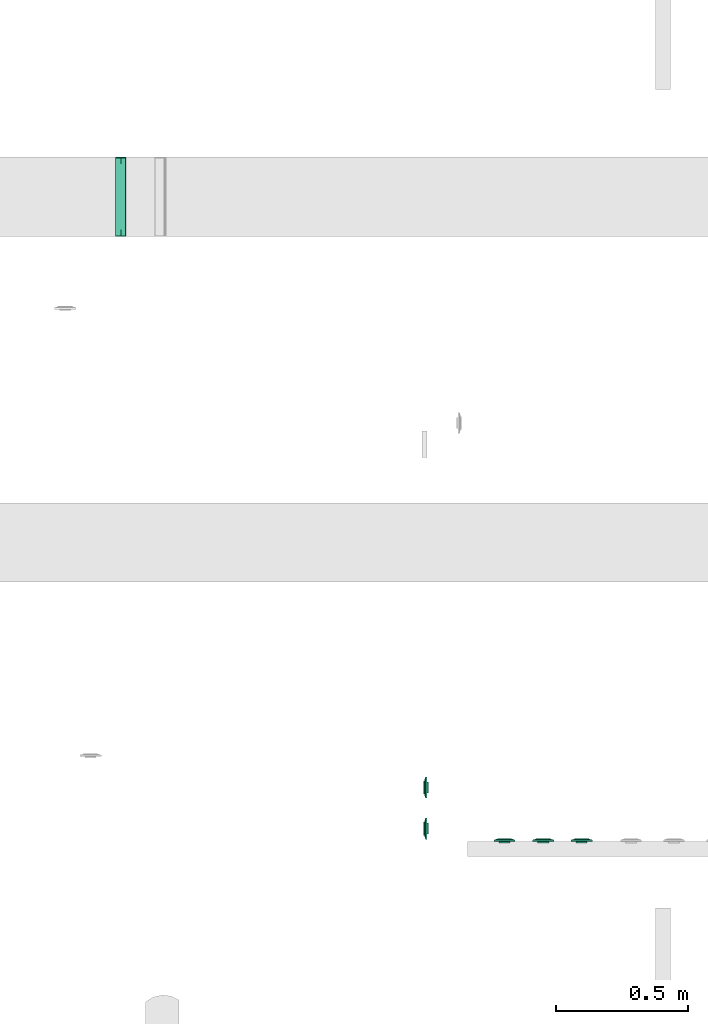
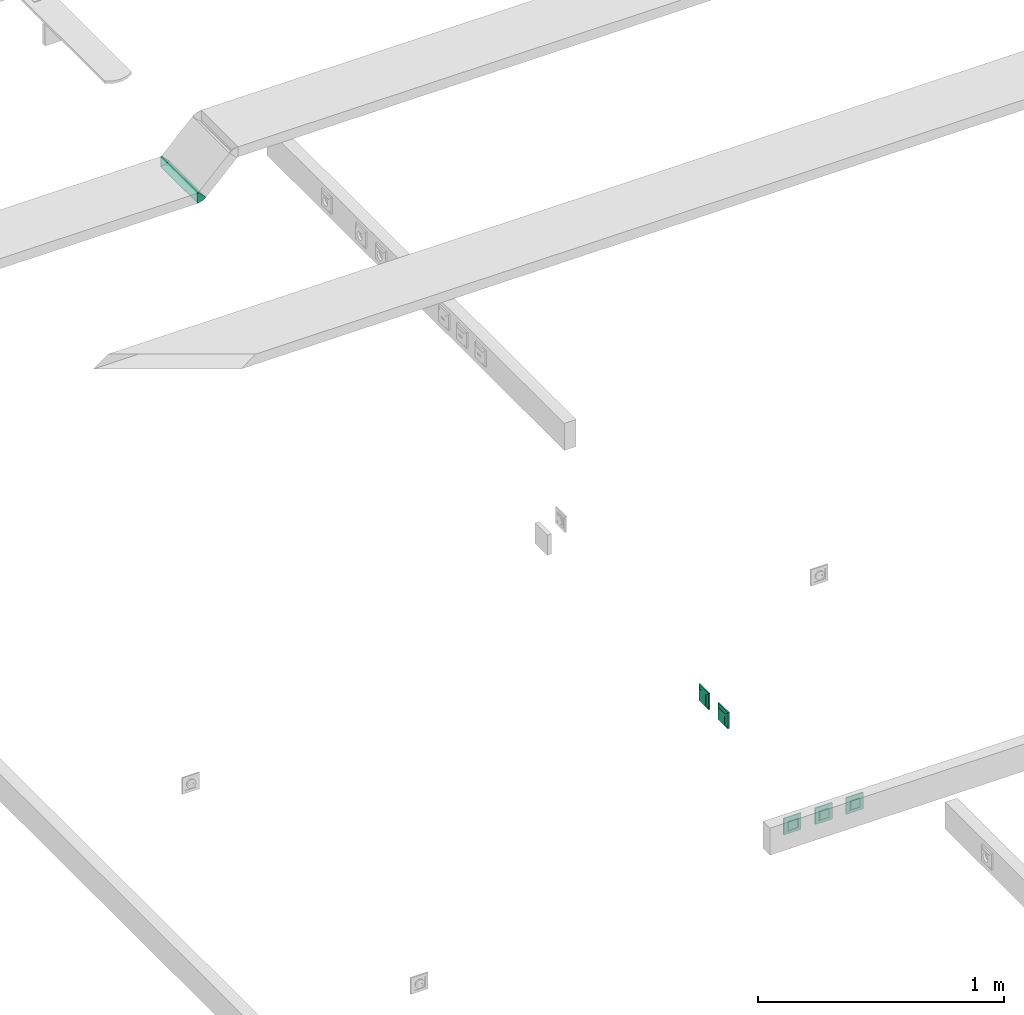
# One storey, part 29 of 166: 5 flow terminals, 1 flow fitting.
"""IFC2X3 building model written with IfcOpenShell, lengths in metres."""

from ifc_helpers import new_model, entity, si_unit, converted_unit, derived_unit, direction, frame, origin, place, context, subcontext, project, spatial, faceted_brep, source, transform, mapped, type_object, type_shapes, element, save


model = new_model("IFC2X3")

# Units and contexts
model_context = context("Model", 3, precision=1e-05, world=origin(), true_north=direction((6.12303176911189e-17, 1.0)))
body_context = subcontext(model_context, "Body", "Model", "MODEL_VIEW")
ifc_project = project(units=[si_unit("LENGTHUNIT", "METRE"), si_unit("AREAUNIT", "SQUARE_METRE"), si_unit("VOLUMEUNIT", "CUBIC_METRE"), converted_unit("PLANEANGLEUNIT", "DEGREE", entity("IfcRatioMeasure", 0.0174532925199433), si_unit("PLANEANGLEUNIT", "RADIAN"), dimensions=[0, 0, 0, 0, 0, 0, 0]), si_unit("MASSUNIT", "GRAM", prefix="KILO"), derived_unit("MASSDENSITYUNIT", [(si_unit("MASSUNIT", "GRAM", prefix="KILO"), 1), (si_unit("LENGTHUNIT", "METRE"), -3)]), si_unit("TIMEUNIT", "SECOND"), si_unit("FREQUENCYUNIT", "HERTZ"), si_unit("THERMODYNAMICTEMPERATUREUNIT", "DEGREE_CELSIUS"), derived_unit("THERMALTRANSMITTANCEUNIT", [(si_unit("MASSUNIT", "GRAM", prefix="KILO"), 1), (si_unit("THERMODYNAMICTEMPERATUREUNIT", "KELVIN"), -1), (si_unit("TIMEUNIT", "SECOND"), -3)]), derived_unit("VOLUMETRICFLOWRATEUNIT", [(si_unit("LENGTHUNIT", "METRE"), 3), (si_unit("TIMEUNIT", "SECOND"), -1)]), si_unit("ELECTRICCURRENTUNIT", "AMPERE"), si_unit("ELECTRICVOLTAGEUNIT", "VOLT"), si_unit("POWERUNIT", "WATT"), si_unit("FORCEUNIT", "NEWTON"), si_unit("ILLUMINANCEUNIT", "LUX"), si_unit("LUMINOUSFLUXUNIT", "LUMEN"), si_unit("LUMINOUSINTENSITYUNIT", "CANDELA"), derived_unit("USERDEFINED", [(si_unit("MASSUNIT", "GRAM", prefix="KILO"), -1), (si_unit("LENGTHUNIT", "METRE"), -2), (si_unit("TIMEUNIT", "SECOND"), 3), (si_unit("LUMINOUSFLUXUNIT", "LUMEN"), 1)]), derived_unit("LINEARVELOCITYUNIT", [(si_unit("LENGTHUNIT", "METRE"), 1), (si_unit("TIMEUNIT", "SECOND"), -1)]), si_unit("PRESSUREUNIT", "PASCAL"), derived_unit("USERDEFINED", [(si_unit("LENGTHUNIT", "METRE"), -2), (si_unit("MASSUNIT", "GRAM", prefix="KILO"), 1), (si_unit("TIMEUNIT", "SECOND"), -2)])], contexts=[model_context])

# Site, building, storey
site_placement = place(None, origin())
site = spatial("IfcSite", under=ifc_project, at=site_placement, Name="Default", CompositionType="ELEMENT")
building_placement = place(site_placement, origin())
building = spatial("IfcBuilding", under=site, at=building_placement, CompositionType="ELEMENT")
storey_placement = place(building_placement, frame((0.0, 0.0, 4.27)))
storey = spatial("IfcBuildingStorey", under=building, at=storey_placement, Name="01", CompositionType="ELEMENT", Elevation=4.27)

# Flow terminals
electric_appliance_type = type_object("IfcElectricApplianceType", Name="RJ45 IP20", PredefinedType="NOTDEFINED")
shared_shape_1 = source(origin(), body_context, "Body", "Brep", [
    faceted_brep([(0.00200000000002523, 0.0, 0.00799999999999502), (0.00400000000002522, 0.0, 0.00799999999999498), (0.00500000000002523, 0.00199999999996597, 0.00799999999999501), (0.0110000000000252, 0.00199999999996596, 0.00799999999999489), (0.0120000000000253, 0.0, 0.00799999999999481), (0.0140000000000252, 0.0, 0.00799999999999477), (0.0140000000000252, 0.00399999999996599, 0.00799999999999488), (0.00200000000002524, 0.00399999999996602, 0.00799999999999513), (0.00200000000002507, 0.0, 0.0), (0.00200000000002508, 0.00399999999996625, 0.0), (0.0140000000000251, 0.00399999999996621, 0.0), (0.0140000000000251, 0.0, 0.0), (0.0120000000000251, 0.0, 0.0), (0.0110000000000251, 0.00199999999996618, 0.0), (0.00500000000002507, 0.0019999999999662, 0.0), (0.00400000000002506, 0.0, 0.0)], [[[0, 1, 2, 3, 4, 5, 6, 7]], [[8, 9, 10, 11, 12, 13, 14, 15]], [[1, 0, 8, 15]], [[2, 1, 15, 14]], [[3, 2, 14, 13]], [[4, 3, 13, 12]], [[5, 4, 12, 11]], [[6, 5, 11, 10]], [[7, 6, 10, 9]], [[0, 7, 9, 8]]]),
    faceted_brep([(-0.0139999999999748, 0.0, 0.00799999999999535), (-0.0119999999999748, 0.0, 0.00799999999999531), (-0.0109999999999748, 0.00199999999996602, 0.00799999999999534), (-0.00499999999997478, 0.00199999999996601, 0.00799999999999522), (-0.0039999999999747, 0.0, 0.00799999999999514), (-0.00199999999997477, 0.0, 0.0079999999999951), (-0.00199999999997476, 0.00399999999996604, 0.00799999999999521), (-0.0139999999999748, 0.00399999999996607, 0.00799999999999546), (-0.0139999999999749, 0.0, 0.0), (-0.0139999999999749, 0.00399999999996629, 0.0), (-0.00199999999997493, 0.00399999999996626, 0.0), (-0.00199999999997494, 0.0, 0.0), (-0.00399999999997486, 0.0, 0.0), (-0.00499999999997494, 0.00199999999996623, 0.0), (-0.0109999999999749, 0.00199999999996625, 0.0), (-0.0119999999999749, 0.0, 0.0)], [[[0, 1, 2, 3, 4, 5, 6, 7]], [[8, 9, 10, 11, 12, 13, 14, 15]], [[1, 0, 8, 15]], [[2, 1, 15, 14]], [[3, 2, 14, 13]], [[4, 3, 13, 12]], [[5, 4, 12, 11]], [[6, 5, 11, 10]], [[7, 6, 10, 9]], [[0, 7, 9, 8]]]),
    faceted_brep([(0.0140000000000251, 0.00399999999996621, 0.0), (0.00200000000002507, 0.00399999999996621, 0.0), (0.00200000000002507, -0.00350000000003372, 0.0), (0.0140000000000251, -0.00350000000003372, 0.0), (0.0140000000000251, 0.00399999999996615, 0.00199999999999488), (0.00200000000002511, 0.00399999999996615, 0.00199999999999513), (0.00200000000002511, -0.00393859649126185, 0.00199999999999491), (0.0140000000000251, -0.00393859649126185, 0.00199999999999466), (0.0210000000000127, 0.0209999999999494, 0.00199999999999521), (-0.0209999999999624, 0.0209999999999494, 0.00199999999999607), (-0.0209999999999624, -0.0210000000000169, 0.00199999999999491), (0.0210000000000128, -0.0210000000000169, 0.00199999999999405), (-0.0139999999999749, 0.0039999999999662, 0.00199999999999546), (-0.0019999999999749, 0.0039999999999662, 0.00199999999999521), (-0.00199999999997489, -0.0039385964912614, 0.00199999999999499), (-0.0139999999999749, -0.00393859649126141, 0.00199999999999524), (0.0210000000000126, 0.0209999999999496, -0.00460000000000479), (0.0210000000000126, -0.0210000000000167, -0.00460000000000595), (-0.0209999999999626, -0.0210000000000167, -0.00460000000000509), (-0.0209999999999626, 0.0209999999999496, -0.00460000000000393), (-0.00199999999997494, 0.00399999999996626, 0.0), (-0.0139999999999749, 0.00399999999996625, 0.0), (-0.0139999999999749, -0.00350000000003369, 0.0), (-0.00199999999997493, -0.00350000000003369, 0.0)], [[[0, 1, 2, 3]], [[1, 0, 4, 5]], [[2, 1, 5, 6]], [[3, 2, 6, 7]], [[0, 3, 7, 4]], [[5, 4, 7, 6], [8, 9, 10, 11], [12, 13, 14, 15]], [[16, 17, 18, 19]], [[9, 8, 16, 19]], [[10, 9, 19, 18]], [[11, 10, 18, 17]], [[8, 11, 17, 16]], [[20, 21, 22, 23]], [[21, 20, 13, 12]], [[22, 21, 12, 15]], [[23, 22, 15, 14]], [[20, 23, 14, 13]]], outer=[[True], [True], [True], [True], [True], [False, True, False], [True], [True], [True], [True], [True], [True], [True], [True], [True], [True]]),
    faceted_brep([(0.0270000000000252, 0.026999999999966, 0.0113999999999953), (-0.0269999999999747, 0.026999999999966, 0.0113999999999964), (-0.0269999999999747, -0.0270000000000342, 0.0113999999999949), (0.0270000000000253, -0.0270000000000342, 0.0113999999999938), (0.0020000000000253, 0.00399999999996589, 0.0113999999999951), (0.0140000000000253, 0.00399999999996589, 0.0113999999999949), (0.0140000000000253, -0.00600000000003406, 0.0113999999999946), (0.0020000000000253, -0.00600000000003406, 0.0113999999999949), (-0.0139999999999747, 0.00399999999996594, 0.0113999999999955), (-0.00199999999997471, 0.00399999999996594, 0.0113999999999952), (-0.00199999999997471, -0.0060000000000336, 0.0113999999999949), (-0.0139999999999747, -0.00600000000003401, 0.0113999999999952), (0.0270000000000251, 0.0269999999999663, 0.00199999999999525), (0.0270000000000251, -0.0270000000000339, 0.00199999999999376), (-0.0269999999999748, -0.0270000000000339, 0.00199999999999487), (-0.0269999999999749, 0.0269999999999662, 0.00199999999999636), (0.0140000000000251, 0.00399999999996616, 0.00199999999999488), (0.00200000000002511, 0.00399999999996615, 0.00199999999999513), (0.00200000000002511, -0.00393859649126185, 0.00199999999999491), (0.0140000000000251, -0.00393859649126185, 0.00199999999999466), (-0.00199999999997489, 0.0039999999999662, 0.00199999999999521), (-0.0139999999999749, 0.0039999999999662, 0.00199999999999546), (-0.0139999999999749, -0.0039385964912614, 0.00199999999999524), (-0.00199999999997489, -0.0039385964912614, 0.00199999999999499)], [[[0, 1, 2, 3], [4, 5, 6, 7], [8, 9, 10, 11]], [[12, 13, 14, 15], [16, 17, 18, 19], [20, 21, 22, 23]], [[1, 0, 12, 15]], [[2, 1, 15, 14]], [[3, 2, 14, 13]], [[0, 3, 13, 12]], [[4, 17, 16, 5]], [[17, 4, 7, 18]], [[18, 7, 6, 19]], [[5, 16, 19, 6]], [[8, 21, 20, 9]], [[21, 8, 11, 22]], [[22, 11, 10, 23]], [[9, 20, 23, 10]]]),
    faceted_brep([(0.027000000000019, 0.0269999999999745, 0.00659999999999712), (-0.0269999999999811, 0.0269999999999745, 0.00659999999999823), (-0.026999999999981, -0.0270000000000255, 0.00659999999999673), (0.027000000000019, -0.0270000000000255, 0.00659999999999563), (0.040350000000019, 0.0403499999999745, 0.00659999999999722), (0.040350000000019, -0.0403500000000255, 0.00659999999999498), (-0.0403499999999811, -0.0403500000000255, 0.00659999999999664), (-0.0403499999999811, 0.0403499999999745, 0.00659999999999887), (-0.026999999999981, 0.0269999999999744, 0.0103999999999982), (0.027000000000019, 0.0269999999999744, 0.0103999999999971), (-0.026999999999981, -0.0270000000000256, 0.0103999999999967), (0.027000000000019, -0.0270000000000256, 0.0103999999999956)], [[[0, 1, 2, 3], [4, 5, 6, 7]], [[4, 7, 8, 9]], [[7, 6, 10, 8]], [[6, 5, 11, 10]], [[5, 4, 9, 11]], [[0, 9, 8, 1]], [[1, 8, 10, 2]], [[2, 10, 11, 3]], [[9, 0, 3, 11]]], outer=[[False, True], [True], [True], [True], [True], [True], [True], [True], [True]]),
    faceted_brep([(0.040350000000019, 0.0403499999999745, 0.00659999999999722), (-0.0403499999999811, 0.0403499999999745, 0.00659999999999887), (-0.0403499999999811, -0.0403500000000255, 0.00659999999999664), (0.040350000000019, -0.0403500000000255, 0.00659999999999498), (-0.0269999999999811, 0.0269999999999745, 0.00659999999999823), (0.0270000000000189, 0.0269999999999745, 0.00659999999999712), (0.0270000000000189, -0.0270000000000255, 0.00659999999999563), (-0.0269999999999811, -0.0270000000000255, 0.00659999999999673), (0.0403500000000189, 0.0403499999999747, 0.0), (0.0403500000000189, -0.0403500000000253, 0.0), (-0.0403499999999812, -0.0403500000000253, 0.0), (-0.0403499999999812, 0.0403499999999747, 0.0), (0.0270000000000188, 0.0269999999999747, 0.0), (-0.0269999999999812, 0.0269999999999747, 0.0), (-0.0269999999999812, -0.0270000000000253, 0.0), (0.0270000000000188, -0.0270000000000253, 0.0)], [[[0, 1, 2, 3], [4, 5, 6, 7]], [[8, 9, 10, 11], [12, 13, 14, 15]], [[1, 0, 8, 11]], [[2, 1, 11, 10]], [[3, 2, 10, 9]], [[0, 3, 9, 8]], [[12, 5, 4, 13]], [[13, 4, 7, 14]], [[14, 7, 6, 15]], [[5, 12, 15, 6]]]),
])
type_shapes(electric_appliance_type, [shared_shape_1])
for number, where, z_axis, x_axis in (
    (1, (28.9291329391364, -190.52806962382, 4.70800000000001), (0.0, 1.0, 0.0), (-1.0, 0.0, 0.0)),
    (2, (29.0742919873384, -190.52806962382, 4.70800000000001), (0.0, 1.0, 0.0), (-1.0, 0.0, 0.0)),
    (3, (28.7821329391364, -190.52806962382, 4.70800000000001), (0.0, 1.0, 0.0), (-1.0, 0.0, 0.0)),
):
    element("IfcFlowTerminal", number, at=place(building_placement, frame(where, z_axis=z_axis, x_axis=x_axis)), inside=storey, type_object=electric_appliance_type, Name="INT_Prise RJ45:RJ45 IP20", ObjectType="INT_Prise RJ45:RJ45 IP20", context=body_context, shape_type="MappedRepresentation", body=[
        mapped(shared_shape_1, transform((0.0, 0.0, 0.0), scale=1.0)),
    ])

# Flow fitting
cable_carrier_fitting_type = type_object("IfcCableCarrierFittingType", Name="E_Bend_Vertical_Inside_CA_Generic_MEPcontent", PredefinedType="NOTDEFINED")
shared_shape_2 = source(origin(), body_context, "Body", "Brep", [
    faceted_brep([(-0.00886744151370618, 0.0264878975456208, 0.14746000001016), (-0.00886744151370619, 0.0264878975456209, 0.15), (0.0264878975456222, -0.00886744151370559, 0.15), (0.0264878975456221, -0.0088674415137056, 0.0), (0.0264878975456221, -0.00886744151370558, -0.15), (-0.00886744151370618, 0.0264878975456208, -0.15), (-0.00886744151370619, 0.0264878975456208, -0.14746000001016), (0.0246918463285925, -0.00707139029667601, -0.14746000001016), (0.0246918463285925, -0.00707139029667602, 0.0), (0.0246918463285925, -0.007071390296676, 0.14746000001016), (-0.0124595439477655, 0.025, -0.14746000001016), (-0.0124595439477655, 0.025, -0.15), (-0.0124595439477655, -0.025, -0.15), (-0.0124595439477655, -0.025, 0.0), (-0.0124595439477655, -0.025, 0.15), (-0.0124595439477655, 0.025, 0.15), (-0.0124595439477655, 0.025, 0.14746000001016), (-0.0124595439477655, -0.02246000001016, 0.14746000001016), (-0.0124595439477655, -0.02246000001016, 0.0), (-0.0124595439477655, -0.02246000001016, -0.14746000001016), (-0.00192044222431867, -0.0229036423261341, 0.15), (0.00861865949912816, -0.0208072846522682, 0.15), (0.0175532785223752, -0.0148373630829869, 0.15), (-0.0105155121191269, 0.0253866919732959, 0.15), (-0.0105155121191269, 0.0253866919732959, 0.14746000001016), (0.0161692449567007, -0.0127660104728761, 0.14746000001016), (0.00764664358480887, -0.0184606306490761, 0.14746000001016), (-0.00240645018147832, -0.0204603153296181, 0.14746000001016), (-0.00240645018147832, -0.0204603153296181, -0.14746000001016), (0.00764664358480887, -0.0184606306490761, -0.14746000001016), (0.0161692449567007, -0.0127660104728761, -0.14746000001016), (-0.0105155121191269, 0.0253866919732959, -0.14746000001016), (-0.0105155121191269, 0.0253866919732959, -0.15), (0.0175532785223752, -0.0148373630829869, -0.15), (0.00861865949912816, -0.0208072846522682, -0.15), (-0.00192044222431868, -0.0229036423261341, -0.15), (0.00352933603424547, -0.0226282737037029, 0.0), (0.0151733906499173, -0.0175669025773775, 0.0), (0.00279201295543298, -0.0201976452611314, 0.0), (0.0144110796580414, -0.0150688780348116, 0.0)], [[[0, 1, 2, 3, 4, 5, 6, 7, 8, 9]], [[10, 11, 12, 13, 14, 15, 16, 17, 18, 19]], [[15, 14, 20, 21, 22, 2, 1, 23]], [[24, 0, 9, 25, 26, 27, 17, 16]], [[10, 19, 28, 29, 30, 7, 6, 31]], [[32, 5, 4, 33, 34, 35, 12, 11]], [[35, 36, 13]], [[33, 3, 37]], [[34, 36, 35]], [[34, 37, 36]], [[37, 3, 22]], [[3, 33, 4]], [[2, 22, 3]], [[21, 20, 36]], [[37, 21, 36]], [[37, 34, 33]], [[20, 13, 36]], [[13, 20, 14]], [[12, 35, 13]], [[22, 21, 37]], [[31, 32, 11, 10]], [[15, 23, 24, 16]], [[6, 5, 32, 31]], [[1, 0, 24, 23]], [[18, 38, 28]], [[39, 8, 30]], [[28, 38, 29]], [[38, 39, 29]], [[25, 8, 39]], [[7, 30, 8]], [[8, 25, 9]], [[38, 27, 26]], [[38, 26, 39]], [[30, 29, 39]], [[38, 18, 27]], [[17, 27, 18]], [[18, 28, 19]], [[39, 26, 25]]]),
    faceted_brep([(-0.00886744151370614, 0.0264878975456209, 0.15), (-0.00886744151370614, 0.0264878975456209, 0.14746000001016), (0.0246918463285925, -0.00707139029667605, 0.14746000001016), (0.0246918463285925, -0.00707139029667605, -0.14746000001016), (-0.00886744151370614, 0.0264878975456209, -0.14746000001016), (-0.00886744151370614, 0.0264878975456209, -0.15), (0.0264878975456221, -0.00886744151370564, -0.15), (0.0264878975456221, -0.00886744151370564, 0.15), (-0.00816033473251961, 0.0271950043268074, 0.15), (0.0271950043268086, -0.00816033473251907, 0.15), (0.0271950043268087, -0.00816033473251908, -0.15), (-0.00816033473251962, 0.0271950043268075, -0.15), (-0.00816033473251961, 0.0271950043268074, -0.14746000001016), (0.025398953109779, -0.00636428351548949, -0.14746000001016), (0.025398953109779, -0.00636428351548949, 0.14746000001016), (-0.00816033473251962, 0.0271950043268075, 0.14746000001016)], [[[0, 1, 2, 3, 4, 5, 6, 7]], [[8, 9, 10, 11, 12, 13, 14, 15]], [[6, 5, 11, 10]], [[4, 3, 13, 12]], [[2, 1, 15, 14]], [[0, 7, 9, 8]], [[1, 0, 8, 15]], [[3, 2, 14, 13]], [[5, 4, 12, 11]], [[7, 6, 10, 9]]]),
    faceted_brep([(-0.0124595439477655, 0.025, 0.15), (-0.0124595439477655, -0.025, 0.15), (-0.0124595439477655, -0.025, -0.15), (-0.0124595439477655, 0.025, -0.15), (-0.0124595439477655, 0.025, -0.14746000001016), (-0.0124595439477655, -0.02246000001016, -0.14746000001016), (-0.0124595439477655, -0.02246000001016, 0.14746000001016), (-0.0124595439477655, 0.025, 0.14746000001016), (-0.0134595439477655, 0.025, 0.15), (-0.0134595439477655, 0.025, 0.14746000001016), (-0.0134595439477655, -0.02246000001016, 0.14746000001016), (-0.0134595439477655, -0.02246000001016, -0.14746000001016), (-0.0134595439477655, 0.025, -0.14746000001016), (-0.0134595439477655, 0.025, -0.15), (-0.0134595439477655, -0.025, -0.15), (-0.0134595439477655, -0.025, 0.15)], [[[0, 1, 2, 3, 4, 5, 6, 7]], [[8, 9, 10, 11, 12, 13, 14, 15]], [[1, 0, 8, 15]], [[7, 6, 10, 9]], [[5, 4, 12, 11]], [[3, 2, 14, 13]], [[2, 1, 15, 14]], [[4, 3, 13, 12]], [[6, 5, 11, 10]], [[0, 7, 9, 8]]]),
])
type_shapes(cable_carrier_fitting_type, [shared_shape_2])
flow_fitting_placement = place(storey_placement, frame((27.323385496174, -188.087883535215, 2.67095756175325), z_axis=(0.0, -1.0, 0.0), x_axis=(1.0, 0.0, 0.0)))
element("IfcFlowFitting", 4, at=flow_fitting_placement, inside=storey, type_object=cable_carrier_fitting_type, Name="E_Bend_Vertical_Inside_CA_Generic_MEPcontent:E_Bend_Vertical_Inside_CA_Generic_MEPcontent", ObjectType="E_Bend_Vertical_Inside_CA_Generic_MEPcontent:E_Bend_Vertical_Inside_CA_Generic_MEPcontent", context=body_context, shape_type="MappedRepresentation", body=[
    mapped(shared_shape_2, transform((0.0, 0.0, 0.0), scale=1.0)),
])

# Flow terminals
light_fixture_type = type_object("IfcLightFixtureType", Name="BP IP21", PredefinedType="NOTDEFINED")
shared_shape_3 = source(origin(), body_context, "Body", "Brep", [
    faceted_brep([(0.0, 0.0209999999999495, -0.00460000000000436), (0.00543519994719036, 0.02028444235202, -0.00460000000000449), (0.0105000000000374, 0.0181865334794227, -0.00460000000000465), (0.0148492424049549, 0.014849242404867, -0.00460000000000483), (0.0181865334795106, 0.0104999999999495, -0.00460000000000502), (0.0202844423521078, 0.00543519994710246, -0.00460000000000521), (0.0210000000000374, 0.0, -0.00460000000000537), (0.0202844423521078, -0.00543519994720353, -0.00460000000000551), (0.0181865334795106, -0.0105000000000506, -0.0046000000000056), (0.0148492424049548, -0.0148492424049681, -0.00460000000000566), (0.0105000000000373, -0.0181865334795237, -0.00460000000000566), (0.00543519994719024, -0.0202844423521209, -0.00460000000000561), (0.0, -0.0210000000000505, -0.00460000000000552), (-0.00543519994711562, -0.0202844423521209, -0.00460000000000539), (-0.0104999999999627, -0.0181865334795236, -0.00460000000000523), (-0.0148492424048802, -0.0148492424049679, -0.00460000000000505), (-0.0181865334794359, -0.0105000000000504, -0.00460000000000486), (-0.0202844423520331, -0.00543519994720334, -0.00460000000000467), (-0.0209999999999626, 0.0, -0.00460000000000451), (-0.020284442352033, 0.00543519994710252, -0.00460000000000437), (-0.0181865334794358, 0.0104999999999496, -0.00460000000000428), (-0.0148492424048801, 0.0148492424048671, -0.00460000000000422), (-0.0104999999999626, 0.0181865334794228, -0.00460000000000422), (-0.00543519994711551, 0.02028444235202, -0.00460000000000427), (-0.020284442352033, -0.00543519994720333, 0.0), (-0.0209999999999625, 0.0, 0.0), (-0.0181865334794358, -0.0105000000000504, 0.0), (-0.0104999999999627, -0.0181865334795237, 0.0), (-0.0148492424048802, -0.0148492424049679, 0.0), (-0.00543519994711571, -0.020284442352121, 0.0), (0.0, -0.0210000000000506, 0.0), (0.00543519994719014, -0.0202844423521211, 0.0), (0.0105000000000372, -0.018186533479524, 0.0), (0.0181865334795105, -0.0105000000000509, 0.0), (0.0148492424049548, -0.0148492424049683, 0.0), (0.0202844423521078, -0.00543519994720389, 0.0), (0.0210000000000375, 0.0, 0.0), (0.0202844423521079, 0.00543519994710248, 0.0), (0.0181865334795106, 0.0104999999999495, 0.0), (0.0105000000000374, 0.0181865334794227, 0.0), (0.0148492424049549, 0.014849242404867, 0.0), (0.00543519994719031, 0.0202844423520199, 0.0), (0.0, 0.0209999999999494, 0.0), (-0.00543519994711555, 0.0202844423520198, 0.0), (-0.0104999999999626, 0.0181865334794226, 0.0), (-0.0181865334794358, 0.0104999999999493, 0.0), (-0.0148492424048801, 0.0148492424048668, 0.0), (-0.020284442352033, 0.00543519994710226, 0.0)], [[[0, 1, 2, 3, 4, 5, 6, 7, 8, 9, 10, 11, 12, 13, 14, 15, 16, 17, 18, 19, 20, 21, 22, 23]], [[17, 24, 25, 18]], [[16, 26, 24, 17]], [[27, 28, 15, 14]], [[16, 15, 28, 26]], [[29, 27, 14, 13]], [[30, 29, 13, 12]], [[11, 31, 30, 12]], [[10, 32, 31, 11]], [[33, 34, 9, 8]], [[10, 9, 34, 32]], [[35, 33, 8, 7]], [[36, 35, 7, 6]], [[5, 37, 36, 6]], [[4, 38, 37, 5]], [[39, 40, 3, 2]], [[4, 3, 40, 38]], [[41, 39, 2, 1]], [[42, 41, 1, 0]], [[23, 43, 42, 0]], [[22, 44, 43, 23]], [[45, 46, 21, 20]], [[22, 21, 46, 44]], [[47, 45, 20, 19]], [[25, 47, 19, 18]], [[25, 24, 26, 28, 27, 29, 30, 31, 32, 34, 33, 35, 36, 37, 38, 40, 39, 41, 42, 43, 44, 46, 45, 47]]]),
    faceted_brep([(0.0270000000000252, 0.026999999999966, 0.0103999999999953), (-0.0269999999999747, 0.026999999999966, 0.0103999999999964), (-0.0269999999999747, -0.0270000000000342, 0.0103999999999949), (0.0270000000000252, -0.0270000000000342, 0.0103999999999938), (-0.0254999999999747, 0.0258096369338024, 0.0103999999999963), (0.0255000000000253, 0.0258096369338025, 0.0103999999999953), (0.0255000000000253, -0.0255000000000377, 0.0103999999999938), (-0.0254999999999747, -0.0255000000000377, 0.0103999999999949), (0.0270000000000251, 0.0269999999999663, 0.00199999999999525), (0.0270000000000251, -0.0270000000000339, 0.00199999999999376), (-0.0269999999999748, -0.0270000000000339, 0.00199999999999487), (-0.0269999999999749, 0.0269999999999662, 0.00199999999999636), (0.0255000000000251, 0.0258096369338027, 0.00199999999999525), (-0.0254999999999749, 0.0258096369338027, 0.0019999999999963), (-0.0254999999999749, -0.0255000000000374, 0.00199999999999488), (0.0255000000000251, -0.0255000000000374, 0.00199999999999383)], [[[0, 1, 2, 3], [4, 5, 6, 7]], [[8, 9, 10, 11], [12, 13, 14, 15]], [[1, 0, 8, 11]], [[2, 1, 11, 10]], [[3, 2, 10, 9]], [[0, 3, 9, 8]], [[12, 5, 4, 13]], [[13, 4, 7, 14]], [[14, 7, 6, 15]], [[5, 12, 15, 6]]]),
    faceted_brep([(0.0250000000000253, 0.0253096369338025, 0.00659999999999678), (0.0250000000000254, 0.0253096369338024, 0.0117095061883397), (0.0250000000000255, -0.0245000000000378, 0.0142232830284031), (0.0250000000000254, -0.0250000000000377, 0.0117095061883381), (0.0250000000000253, -0.0250000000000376, 0.00659999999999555), (-0.0249999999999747, 0.0253096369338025, 0.00659999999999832), (-0.0249999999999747, -0.0250000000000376, 0.00659999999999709), (-0.0249999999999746, -0.0250000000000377, 0.0117095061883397), (-0.0249999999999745, -0.0245000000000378, 0.0142232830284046), (-0.0249999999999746, 0.0253096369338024, 0.0117095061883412)], [[[0, 1, 2, 3, 4]], [[5, 6, 7, 8, 9]], [[1, 0, 5, 9]], [[2, 1, 9, 8]], [[3, 2, 8, 7]], [[4, 3, 7, 6]], [[0, 4, 6, 5]]]),
    faceted_brep([(0.027000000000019, 0.0269999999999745, 0.00659999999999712), (-0.0269999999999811, 0.0269999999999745, 0.00659999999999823), (-0.026999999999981, -0.0270000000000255, 0.00659999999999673), (0.027000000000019, -0.0270000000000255, 0.00659999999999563), (0.040350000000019, 0.0403499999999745, 0.00659999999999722), (0.040350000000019, -0.0403500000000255, 0.00659999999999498), (-0.0403499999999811, -0.0403500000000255, 0.00659999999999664), (-0.0403499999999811, 0.0403499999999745, 0.00659999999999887), (-0.026999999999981, 0.0269999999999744, 0.0103999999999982), (0.027000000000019, 0.0269999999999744, 0.0103999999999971), (-0.026999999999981, -0.0270000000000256, 0.0103999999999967), (0.027000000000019, -0.0270000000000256, 0.0103999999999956)], [[[0, 1, 2, 3], [4, 5, 6, 7]], [[4, 7, 8, 9]], [[7, 6, 10, 8]], [[6, 5, 11, 10]], [[5, 4, 9, 11]], [[0, 9, 8, 1]], [[1, 8, 10, 2]], [[2, 10, 11, 3]], [[9, 0, 3, 11]]], outer=[[False, True], [True], [True], [True], [True], [True], [True], [True], [True]]),
    faceted_brep([(0.040350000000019, 0.0403499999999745, 0.00659999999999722), (-0.0403499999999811, 0.0403499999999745, 0.00659999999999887), (-0.0403499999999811, -0.0403500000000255, 0.00659999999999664), (0.040350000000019, -0.0403500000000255, 0.00659999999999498), (-0.0269999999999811, 0.0269999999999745, 0.00659999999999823), (0.0270000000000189, 0.0269999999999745, 0.00659999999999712), (0.0270000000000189, -0.0270000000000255, 0.00659999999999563), (-0.0269999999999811, -0.0270000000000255, 0.00659999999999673), (0.0403500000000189, 0.0403499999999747, 0.0), (0.0403500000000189, -0.0403500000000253, 0.0), (-0.0403499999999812, -0.0403500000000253, 0.0), (-0.0403499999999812, 0.0403499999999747, 0.0), (0.0270000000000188, 0.0269999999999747, 0.0), (-0.0269999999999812, 0.0269999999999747, 0.0), (-0.0269999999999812, -0.0270000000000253, 0.0), (0.0270000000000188, -0.0270000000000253, 0.0)], [[[0, 1, 2, 3], [4, 5, 6, 7]], [[8, 9, 10, 11], [12, 13, 14, 15]], [[1, 0, 8, 11]], [[2, 1, 11, 10]], [[3, 2, 10, 9]], [[0, 3, 9, 8]], [[12, 5, 4, 13]], [[13, 4, 7, 14]], [[14, 7, 6, 15]], [[5, 12, 15, 6]]]),
])
type_shapes(light_fixture_type, [shared_shape_3])
for number, where, z_axis, x_axis in (
    (5, (28.4897436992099, -190.478960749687, 5.32000000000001), (-1.0, 0.0, 0.0), (0.0, -1.0, 0.0)),
    (6, (28.4897436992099, -190.323225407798, 5.32000000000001), (-1.0, 0.0, 0.0), (0.0, -1.0, 0.0)),
):
    element("IfcFlowTerminal", number, at=place(building_placement, frame(where, z_axis=z_axis, x_axis=x_axis)), inside=storey, type_object=light_fixture_type, Name="INT_Cmd BA:BP IP21", ObjectType="INT_Cmd BA:BP IP21", context=body_context, shape_type="MappedRepresentation", body=[
        mapped(shared_shape_3, transform((0.0, 0.0, 0.0), scale=1.0)),
    ])

save(model, "model.ifc")
